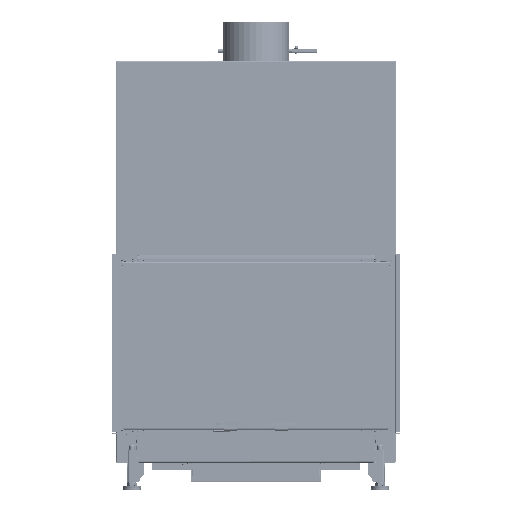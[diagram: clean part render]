
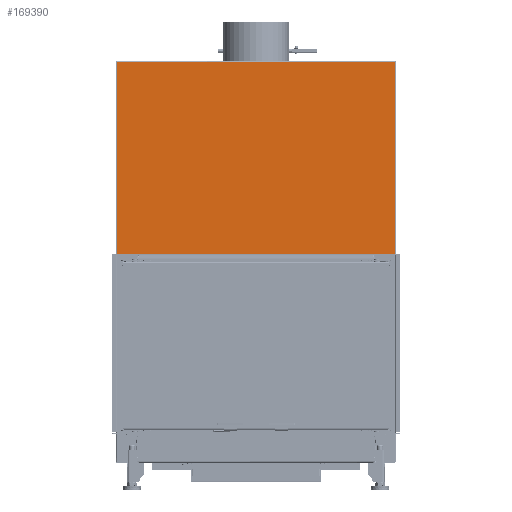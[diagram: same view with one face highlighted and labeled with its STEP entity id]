
A CAD part, front view. The second image highlights one B-rep face of the part: STEP entity #169390.
In plain terms, the highlighted planar face has unit normal (0, -1, 0).
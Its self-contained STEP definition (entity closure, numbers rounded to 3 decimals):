
#13868=FACE_OUTER_BOUND('',#23225,.T.);
#23225=EDGE_LOOP('',(#111765,#111766,#111767,#111768));
#33730=LINE('',#250486,#50549);
#33736=LINE('',#250570,#50555);
#33738=LINE('',#250647,#50557);
#33739=LINE('',#250649,#50558);
#50549=VECTOR('',#198739,10.);
#50555=VECTOR('',#198769,10.);
#50557=VECTOR('',#198783,10.);
#50558=VECTOR('',#198786,10.);
#67361=VERTEX_POINT('',#250445);
#67363=VERTEX_POINT('',#250479);
#67366=VERTEX_POINT('',#250561);
#67367=VERTEX_POINT('',#250569);
#84301=EDGE_CURVE('',#67361,#67363,#33730,.T.);
#84315=EDGE_CURVE('',#67367,#67366,#33736,.T.);
#84324=EDGE_CURVE('',#67363,#67367,#33738,.T.);
#84325=EDGE_CURVE('',#67366,#67361,#33739,.T.);
#111765=ORIENTED_EDGE('',*,*,#84301,.T.);
#111766=ORIENTED_EDGE('',*,*,#84324,.T.);
#111767=ORIENTED_EDGE('',*,*,#84315,.T.);
#111768=ORIENTED_EDGE('',*,*,#84325,.T.);
#159030=PLANE('',#179670);
#169390=ADVANCED_FACE('',(#13868),#159030,.T.);
#179670=AXIS2_PLACEMENT_3D('',#250648,#198784,#198785);
#198739=DIRECTION('',(1.,0.,0.));
#198769=DIRECTION('',(-1.,0.,0.));
#198783=DIRECTION('',(0.,0.,1.));
#198784=DIRECTION('center_axis',(0.,-1.,0.));
#198785=DIRECTION('ref_axis',(1.,0.,0.));
#198786=DIRECTION('',(0.,0.,-1.));
#250445=CARTESIAN_POINT('',(-57.25,-60.,582.25));
#250479=CARTESIAN_POINT('',(717.25,-60.,582.25));
#250486=CARTESIAN_POINT('',(523.625,-60.,582.25));
#250561=CARTESIAN_POINT('',(-57.25,-60.,1114.25));
#250569=CARTESIAN_POINT('',(717.25,-60.,1114.25));
#250570=CARTESIAN_POINT('',(523.625,-60.,1114.25));
#250647=CARTESIAN_POINT('',(717.25,-60.,713.875));
#250648=CARTESIAN_POINT('Origin',(330.,-60.,848.25));
#250649=CARTESIAN_POINT('',(-57.25,-60.,982.625));
